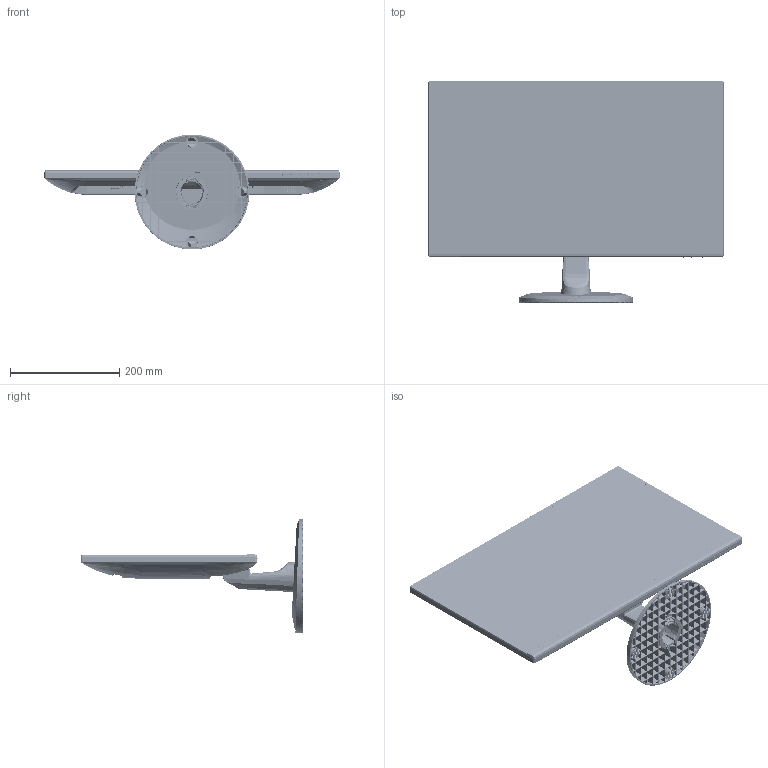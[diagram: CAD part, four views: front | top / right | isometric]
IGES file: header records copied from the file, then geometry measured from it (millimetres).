
Start section: SolidWorks IGES file using analytic representation for surfaces
Global section: file name: C:\Users\ebarton\Documents\Redoing Drawings Project\Finished Products\997-8227 (PXN2470MW)\997-8227.IGS; native system: SolidWorks 2016; preprocessor: SolidWorks 2016; author: ebarton; date: 160412.145359; units: millimetre
Bounding box: 541 x 407.9 x 209.9 mm (x, y, z)
Surface area: 1300419 mm2 (no closed solid volume)
Topology: 0 solids, 0 shells, 10311 faces, 98535 edges, 98178 vertices
Faces by surface type: bspline 7234, revolution 3077
